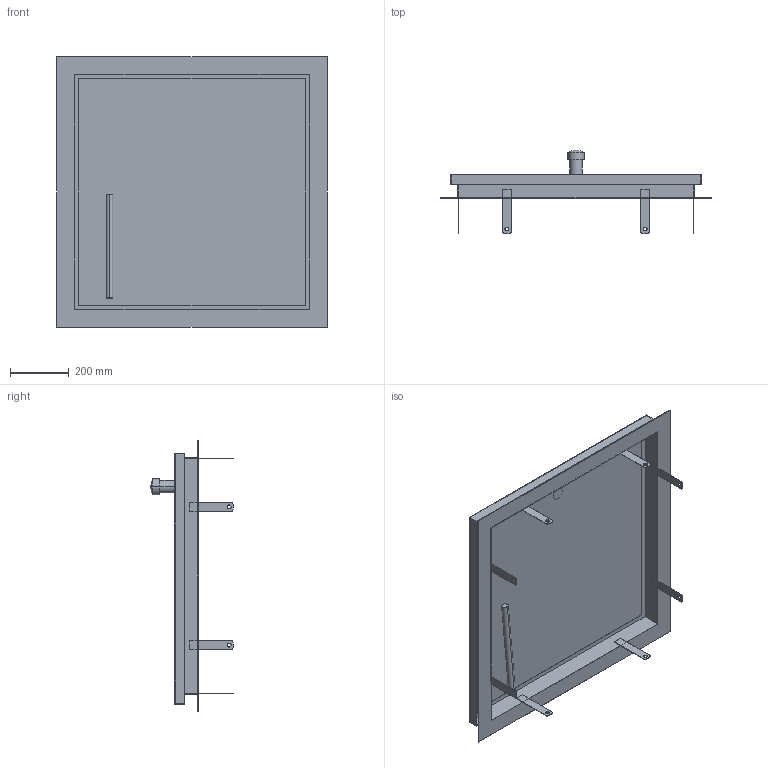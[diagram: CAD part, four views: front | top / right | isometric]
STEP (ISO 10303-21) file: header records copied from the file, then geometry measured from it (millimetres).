
FILE_DESCRIPTION((''),'2;1');
FILE_NAME('017_000105','2017-05-22T',('slc'),('HUBER SE'),'PRO/ENGINEER BY PARAMETRIC TECHNOLOGY CORPORATION, 2015280','PRO/ENGINEER BY PARAMETRIC TECHNOLOGY CORPORATION, 2015280','');
FILE_SCHEMA(('CONFIG_CONTROL_DESIGN'));
Length unit declared in the file: millimetre
Products named in the file (1): 017_000105
Bounding box: 920 x 283 x 920 mm (x, y, z)
Volume: 2927944.8 mm3; surface area: 2694844.1 mm2
Topology: 3 solids, 3 shells, 106 faces, 398 edges, 324 vertices
Faces by surface type: plane 74, cylinder 30, sphere 2
Entity records: 4002 total; most frequent: CARTESIAN_POINT 817, DIRECTION 625, ORIENTED_EDGE 536, VECTOR 287, LINE 287, EDGE_CURVE 268, VERTEX_POINT 173, AXIS2_PLACEMENT_3D 169
